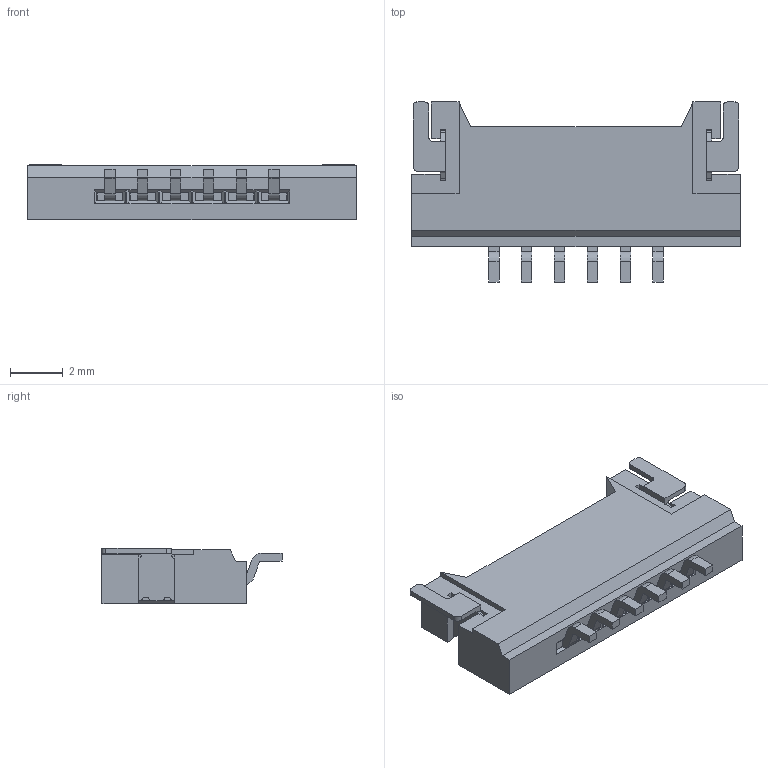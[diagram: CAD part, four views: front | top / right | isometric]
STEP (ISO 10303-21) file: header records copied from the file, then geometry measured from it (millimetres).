
FILE_DESCRIPTION(('CATIA V5 STEP Exchange'),'2;1');
FILE_NAME('\\Erp\共享文件夹\3D文件\小覃\条形连接器-小黄\1.25系列\德利\CB1.25\NPWT\HC-CB1.25-6PWT(1.25 超薄卧贴-HCTL).stp','2025-03-22T06:40:24+00:00',('none'),('none'),'CATIA Version 5 Release 20 GA (IN-10)','CATIA V5 STEP AP203','none');
FILE_SCHEMA(('CONFIG_CONTROL_DESIGN'));
Length unit declared in the file: millimetre
Products named in the file (1): Part2
Bounding box: 12.5 x 6.85 x 2.1 mm (x, y, z)
Volume: 69.1 mm3; surface area: 345.1 mm2
Topology: 1 solids, 1 shells, 402 faces, 1142 edges, 722 vertices
Faces by surface type: plane 328, cylinder 74
Entity records: 11834 total; most frequent: ORIENTED_EDGE 2284, CARTESIAN_POINT 2237, DIRECTION 1506, EDGE_CURVE 1142, VECTOR 986, LINE 986, VERTEX_POINT 722, EDGE_LOOP 422
